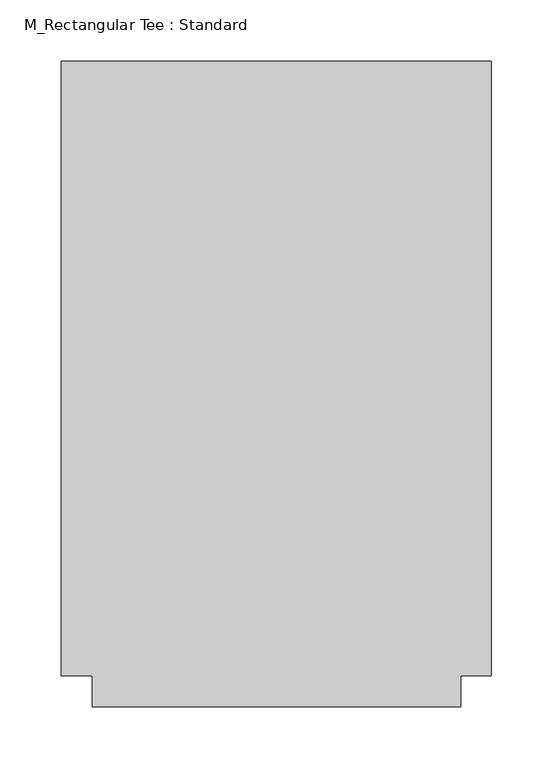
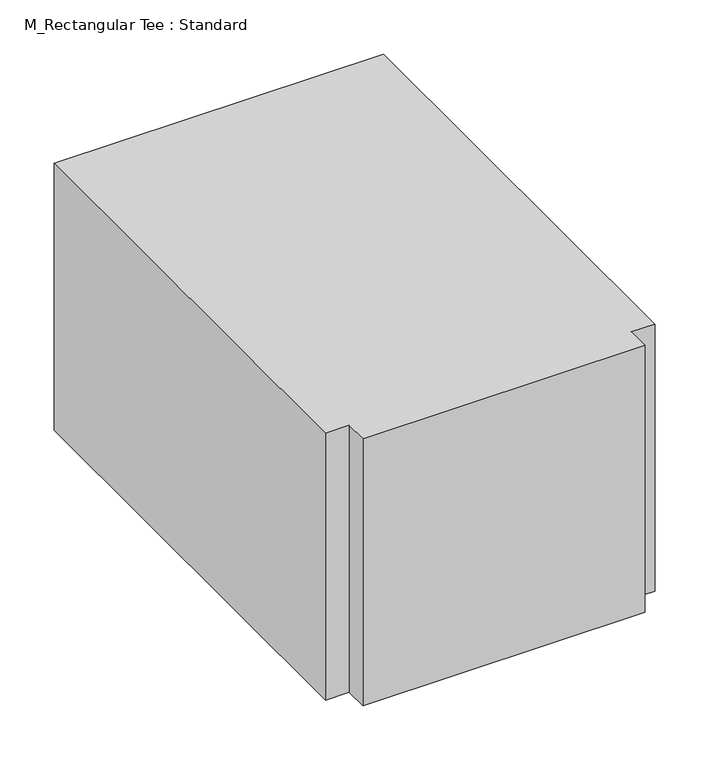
"""IFC4 building model written with IfcOpenShell, lengths in millimetres: duct fitting geometry, M_Rectangular Tee : Standard."""

from ifc_helpers import new_model, si_unit, frame, origin, place, context, project, spatial, polyline, outline, extrude, source, transform, mapped, element, save


def m_rectangular_tee_standard_67f42514(model_context):
    return source(origin(), model_context, "Body", "SweptSolid", [
        extrude(outline(polyline([(-175.0, -250.0), (-175.0, 250.0), (175.0, 250.0), (175.0, -250.0), (150.0, -250.0), (150.0, -275.0), (-150.0, -275.0), (-150.0, -250.0), (-175.0, -250.0)])), frame((0.0, 0.0, -150.0), z_axis=(0.0, 0.0, 1.0), x_axis=(1.0, 0.0, 0.0)), (0.0, 0.0, 1.0), 300.0),
    ])


if __name__ == "__main__":
    model = new_model("IFC4")
    model_context = context("Model", 3, world=origin())
    ifc_project = project(units=[si_unit("LENGTHUNIT", "METRE", prefix="MILLI")], contexts=[model_context])
    site = spatial("IfcSite", under=ifc_project)
    building = spatial("IfcBuilding", under=site)
    placement = place(None, origin())
    m_rectangular_tee_standard_shape = m_rectangular_tee_standard_67f42514(model_context)
    element("IfcDuctFitting", 1, ObjectType="M_Rectangular Tee : Standard", at=placement, inside=building, context=model_context, shape_type="MappedRepresentation", body=[
        mapped(m_rectangular_tee_standard_shape, transform((0.0, 0.0, 0.0), x_axis=(1.0, 0.0, 0.0), y_axis=(0.0, 1.0, 0.0), z_axis=(0.0, 0.0, 1.0))),
    ])
    save(model, "model.ifc")
